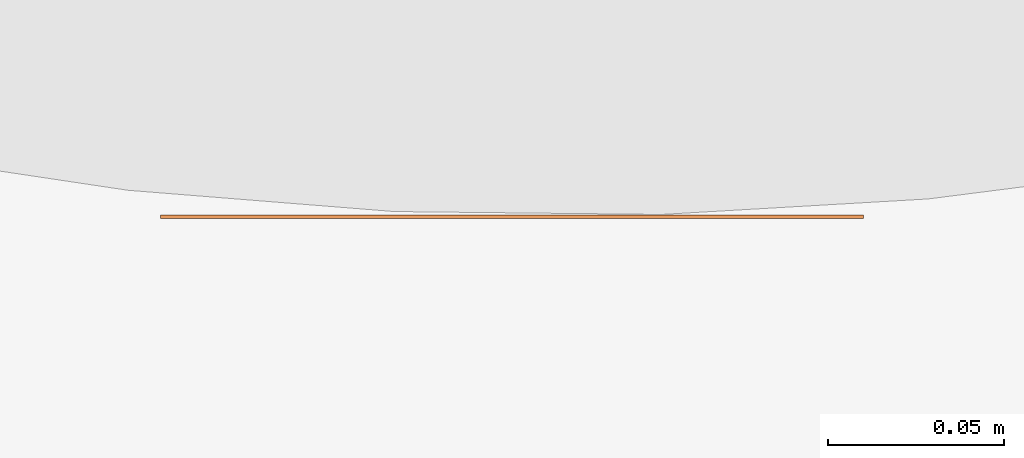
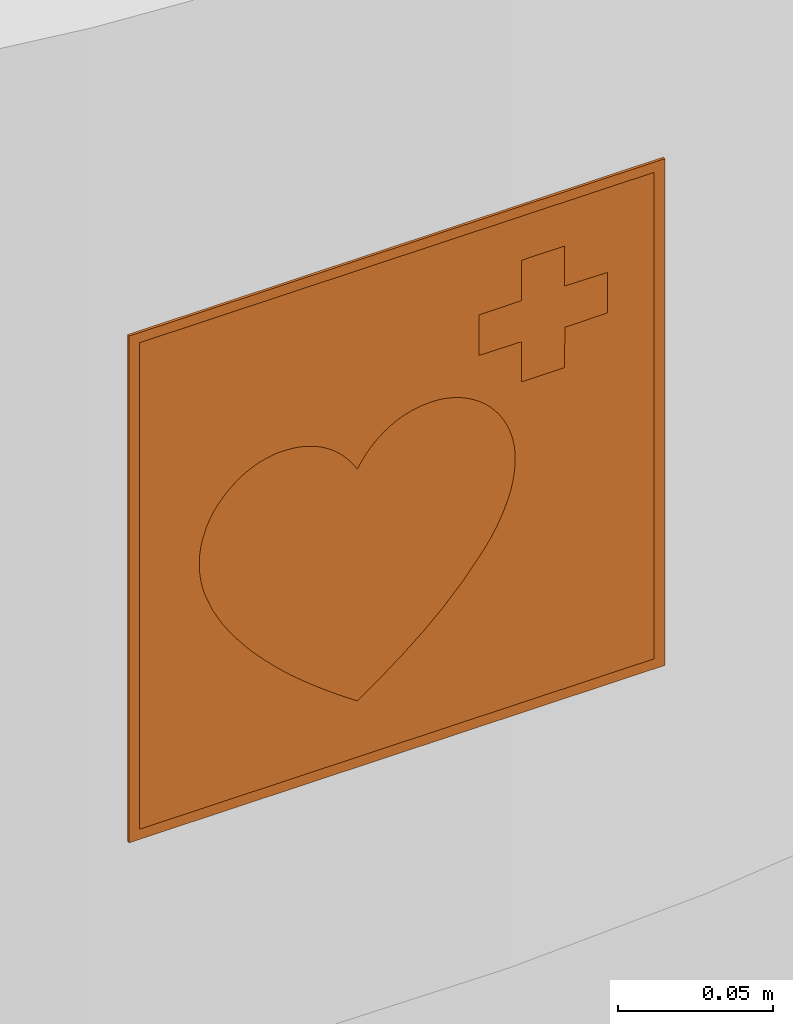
# One storey, part 131 of 133: 1 proxy.
"""IFC2X3 building model written with IfcOpenShell, lengths in centimetres."""

from ifc_helpers import new_model, entity, si_unit, converted_unit, direction, frame, origin, origin_with_axes, place, context, subcontext, project, spatial, faceted_brep, source, transform, mapped, material, material_list, type_object, element, save


model = new_model("IFC2X3")

# Units and contexts
model_context = context("Model", 3, precision=0.0001, world=origin(), true_north=direction((0.225632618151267, 0.974212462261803, 0.0)))
body_context = subcontext(model_context, "Body", "Model", "MODEL_VIEW")
ifc_project = project(units=[si_unit("LENGTHUNIT", "METRE", prefix="CENTI"), si_unit("AREAUNIT", "SQUARE_METRE", prefix="CENTI"), si_unit("VOLUMEUNIT", "CUBIC_METRE", prefix="CENTI"), converted_unit("PLANEANGLEUNIT", "DEGREE", entity("IfcRatioMeasure", 0.0174532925), si_unit("PLANEANGLEUNIT", "RADIAN"), dimensions=[0, 0, 0, 0, 0, 0, 0])], contexts=[model_context])

# Site, building, storey
site_placement = place(None, origin_with_axes())
site = spatial("IfcSite", under=ifc_project, at=site_placement, Name="Default Site", CompositionType="ELEMENT")
building_placement = place(site_placement, origin_with_axes())
building = spatial("IfcBuilding", under=site, at=building_placement, Name="Default Building", CompositionType="ELEMENT")
storey_placement = place(building_placement, frame((0.0, 0.0, -291.400371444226), z_axis=(0.0, 0.0, 1.0), x_axis=(1.0, 0.0, 0.0)))
storey = spatial("IfcBuildingStorey", under=building, at=storey_placement, Name="Rez-de-Jardin", CompositionType="ELEMENT", Elevation=-291.400371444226)

# Proxy
ifc_material_1 = material(Name="Blanc signal")
ifc_material_2 = material(Name="Vert signal")
ifc_material_list = material_list([ifc_material_1, ifc_material_2])
building_element_proxy_type = type_object("IfcBuildingElementProxyType", Name="Défribillateur externe automatique - E010", PredefinedType="NOTDEFINED", material=ifc_material_list)
shared_shape = source(origin_with_axes(), body_context, "Body", "Brep", [
    faceted_brep([(-5.9697799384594, -0.05000009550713, 2.87996437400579), (-6.17740750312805, -0.05000009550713, 2.71382350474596), (-6.37210458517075, -0.05000009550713, 2.53269914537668), (-6.67807310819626, -0.05000009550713, 2.18735616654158), (-6.80688992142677, -0.05000009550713, 2.0109822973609), (-6.9230742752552, -0.05000009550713, 1.82604156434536), (-7.02537819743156, -0.05000009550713, 1.63459572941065), (-7.11396113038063, -0.05000009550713, 1.43642798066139), (-7.25809261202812, -0.0500000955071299, 1.00648486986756), (-7.31892958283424, -0.0500000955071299, 0.737267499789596), (-7.35832378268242, -0.0500000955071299, 0.464088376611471), (-7.37675875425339, -0.0500000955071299, 0.184654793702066), (-7.3740191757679, -0.0500000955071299, -0.095372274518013), (-7.34976679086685, -0.0500000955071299, -0.382277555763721), (-7.30453208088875, -0.0500000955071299, -0.666630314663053), (-7.23716542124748, -0.0500000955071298, -0.957922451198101), (-7.15084969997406, -0.0500000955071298, -1.24417254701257), (-6.88293874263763, -0.0500000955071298, -1.90388578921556), (-6.52337297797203, -0.0500000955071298, -2.56798472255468), (-6.06728345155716, -0.0500000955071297, -3.24468947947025), (-5.50898797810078, -0.0500000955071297, -3.94239984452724), (-5.2450742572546, -0.0500000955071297, -4.23672907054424), (-4.9113716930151, -0.0500000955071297, -4.58561107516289), (-4.56524267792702, -0.0500000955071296, -4.93128038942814), (-4.26174253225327, -0.0500000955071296, -5.21679930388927), (-4.16735634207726, -0.0500000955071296, -5.30245080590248), (-4.08604256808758, -0.0500000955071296, -5.37641458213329), (-4.01523225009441, -0.0500000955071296, -5.44094331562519), (-3.9663840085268, -0.0500000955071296, -5.48632927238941), (-3.73893491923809, -0.0500000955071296, -5.67861199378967), (-3.52138057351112, -0.0500000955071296, -5.86148165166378), (-3.37387956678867, -0.0500000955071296, -5.98331838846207), (-2.9934810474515, -0.0500000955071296, -6.28429725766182), (-2.51603294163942, -0.0500000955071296, -6.64502084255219), (-2.03654579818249, -0.0500000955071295, -6.99566230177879), (-1.65118034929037, -0.0500000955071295, -7.26385414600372), (-1.48224169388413, -0.0500000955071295, -7.37755075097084), (-1.39591982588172, -0.0500000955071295, -7.32002481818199), (-0.590708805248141, -0.0500000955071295, -6.75578340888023), (0.229921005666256, -0.0500000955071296, -6.12583719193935), (1.00595680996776, -0.0500000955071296, -5.47851845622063), (1.67584083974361, -0.0500000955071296, -4.86243478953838), (2.48460378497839, -0.0500000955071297, -4.01150658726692), (3.22410352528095, -0.0500000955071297, -3.09974066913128), (3.4973468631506, -0.0500000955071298, -2.70579047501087), (3.74174006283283, -0.0500000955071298, -2.29332074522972), (3.95603217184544, -0.0500000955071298, -1.86444111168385), (4.13912944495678, -0.0500000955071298, -1.4213440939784), (4.24016267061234, -0.0500000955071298, -1.11633241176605), (4.31885458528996, -0.0500000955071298, -0.804807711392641), (4.37479242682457, -0.0500000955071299, -0.488404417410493), (4.4076818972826, -0.0500000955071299, -0.168782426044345), (4.41735163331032, -0.0500000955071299, 0.152381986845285), (4.40661609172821, -0.0500000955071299, 0.40299822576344), (4.37753461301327, -0.0500000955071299, 0.652151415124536), (4.33026514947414, -0.0500000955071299, 0.898503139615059), (4.26506064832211, -0.0500000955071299, 1.14072598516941), (4.18227463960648, -0.05000009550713, 1.3775167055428), (4.08234968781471, -0.05000009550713, 1.60760134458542), (3.9589487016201, -0.05000009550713, 1.8420023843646), (3.81802543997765, -0.05000009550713, 2.0663071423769), (3.66040132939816, -0.05000009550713, 2.2792087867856), (3.48960496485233, -0.05000009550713, 2.47563626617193), (3.30357067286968, -0.05000009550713, 2.6576979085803), (3.10350246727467, -0.05000009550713, 2.82421670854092), (2.89422832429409, -0.05000009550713, 2.97137964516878), (2.6735957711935, -0.05000009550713, 3.10089476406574), (2.44308840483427, -0.05000009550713, 3.21188978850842), (2.20711883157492, -0.05000009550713, 3.30209285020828), (1.96432806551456, -0.05000009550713, 3.37188169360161), (1.71647686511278, -0.05000009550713, 3.42075228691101), (1.52499228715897, -0.0500000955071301, 3.4431129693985), (1.33239831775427, -0.0500000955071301, 3.45171093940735), (0.930626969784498, -0.0500000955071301, 3.42992804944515), (0.531678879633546, -0.05000009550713, 3.35748344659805), (0.341801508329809, -0.05000009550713, 3.30369062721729), (0.156007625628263, -0.05000009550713, 3.23714539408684), (-0.0752317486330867, -0.05000009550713, 3.13326194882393), (-0.29635604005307, -0.05000009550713, 3.00929769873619), (-0.515080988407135, -0.05000009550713, 2.86138989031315), (-0.721525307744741, -0.05000009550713, 2.69677378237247), (-0.915152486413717, -0.05000009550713, 2.51583009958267), (-1.09403785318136, -0.05000009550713, 2.32030022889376), (-1.25090414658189, -0.05000009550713, 2.1175904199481), (-1.38967204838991, -0.05000009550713, 1.90208610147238), (-1.47237908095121, -0.05000009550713, 1.76055375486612), (-1.51053396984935, -0.05000009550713, 1.82363130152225), (-1.71739123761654, -0.05000009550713, 2.13268529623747), (-1.95167250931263, -0.05000009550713, 2.42150537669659), (-2.11307890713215, -0.05000009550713, 2.58995965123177), (-2.28639785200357, -0.05000009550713, 2.74613257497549), (-2.47069653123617, -0.05000009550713, 2.88918130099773), (-2.65901014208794, -0.05000009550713, 3.01398131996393), (-2.85627748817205, -0.05000009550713, 3.1240863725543), (-3.06135378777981, -0.05000009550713, 3.21885533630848), (-3.27415317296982, -0.05000009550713, 3.29829975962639), (-3.49230468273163, -0.05000009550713, 3.36158312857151), (-3.71458306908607, -0.05000009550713, 3.40835116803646), (-3.9118655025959, -0.0500000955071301, 3.43321412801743), (-4.15606014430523, -0.0500000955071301, 3.4470722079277), (-4.39499840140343, -0.0500000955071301, 3.4491166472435), (-4.57249470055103, -0.0500000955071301, 3.43628451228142), (-4.82556708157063, -0.05000009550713, 3.39302644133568), (-5.07432222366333, -0.05000009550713, 3.32948230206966), (-5.31057491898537, -0.05000009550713, 3.2474473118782), (-5.53876310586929, -0.05000009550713, 3.14510017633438), (-5.75998574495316, -0.05000009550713, 3.02182119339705), (-2.00183130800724, -0.0500000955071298, -2.21424121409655), (-2.29901932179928, -0.0500000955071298, -2.20983251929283), (-2.74401064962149, -0.0500000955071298, -2.20855958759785), (-3.72339300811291, -0.0500000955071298, -2.20855958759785), (-3.5364642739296, -0.0500000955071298, -2.00324095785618), (-3.43509875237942, -0.0500000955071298, -1.89119949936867), (-3.26796174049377, -0.0500000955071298, -1.70500949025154), (-3.07650007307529, -0.0500000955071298, -1.49106383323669), (-2.88490708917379, -0.0500000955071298, -1.27630298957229), (-2.70185340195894, -0.0500000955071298, -1.07084214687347), (-2.53627281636, -0.0500000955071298, -0.885088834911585), (-2.39723492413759, -0.0500000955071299, -0.72918962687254), (-2.35052425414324, -0.0500000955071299, -0.676995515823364), (-2.30517759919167, -0.0500000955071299, -0.626322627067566), (-2.18470022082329, -0.0500000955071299, -0.491207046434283), (-2.04103253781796, -0.0500000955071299, -0.329983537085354), (-1.88397001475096, -0.0500000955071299, -0.15361737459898), (-1.71188954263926, -0.0500000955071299, 0.0396276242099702), (-1.52278551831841, -0.0500000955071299, 0.251918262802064), (-1.34505499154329, -0.0500000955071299, 0.451380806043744), (-1.21161323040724, -0.0500000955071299, 0.601065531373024), (-1.08217261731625, -0.0500000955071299, 0.746319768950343), (-0.918639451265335, -0.0500000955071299, 0.930034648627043), (-0.74949786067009, -0.0500000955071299, 1.12018818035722), (-0.601207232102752, -0.05000009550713, 1.28705212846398), (-0.465042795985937, -0.05000009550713, 1.43995489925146), (-0.332803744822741, -0.05000009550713, 1.58763639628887), (-0.219475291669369, -0.05000009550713, 1.71349979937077), (-0.157705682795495, -0.05000009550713, 1.78092550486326), (-0.0793394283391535, -0.05000009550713, 1.86408553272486), (-0.0646249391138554, -0.05000009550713, 1.87805276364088), (-0.0478750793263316, -0.05000009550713, 1.89093481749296), (-0.0482590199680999, -0.05000009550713, 1.86868440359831), (-0.0560547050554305, -0.05000009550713, 1.85236148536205), (-0.128567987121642, -0.05000009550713, 1.70834511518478), (-0.812224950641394, -0.0500000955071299, 0.261322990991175), (-1.51655590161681, -0.0500000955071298, -1.23011451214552), (-1.52737889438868, -0.0500000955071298, -1.25549333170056), (-1.53679391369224, -0.0500000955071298, -1.28407329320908), (-1.533193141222, -0.0500000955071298, -1.29831116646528), (-1.52043467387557, -0.0500000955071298, -1.30558358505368), (-1.39901740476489, -0.0500000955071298, -1.31536927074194), (-1.16932708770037, -0.0500000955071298, -1.32156498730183), (-0.555958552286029, -0.0500000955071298, -1.32601540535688), (0.435801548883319, -0.0500000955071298, -1.33179454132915), (-1.32305407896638, -0.0500000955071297, -3.38497795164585), (-1.99666805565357, -0.0500000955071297, -4.16921228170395), (-2.56145112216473, -0.0500000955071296, -4.82199788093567), (-3.06375678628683, -0.0500000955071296, -5.39878346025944), (-3.0500415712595, -0.0500000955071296, -5.33910728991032), (-2.99228634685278, -0.0500000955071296, -5.19796311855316), (-2.88794655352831, -0.0500000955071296, -4.94755543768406), (-2.61877160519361, -0.0500000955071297, -4.30613569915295), (-2.51356642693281, -0.0500000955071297, -4.05516736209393), (-2.41325926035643, -0.0500000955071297, -3.81503626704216), (-2.32839863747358, -0.0500000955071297, -3.61115112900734), (-2.28561349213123, -0.0500000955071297, -3.50705906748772), (-2.25017238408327, -0.0500000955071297, -3.42040583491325), (-2.20191515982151, -0.0500000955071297, -3.30340526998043), (-2.14998200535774, -0.0500000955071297, -3.17810550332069), (-2.10206340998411, -0.0500000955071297, -3.06312758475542), (-2.05125547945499, -0.0500000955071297, -2.94157825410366), (-1.99021305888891, -0.0500000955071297, -2.79551018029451), (-1.92901156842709, -0.0500000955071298, -2.6490343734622), (-1.87766831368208, -0.0500000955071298, -2.52612438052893), (-1.83435026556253, -0.0500000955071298, -2.42071151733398), (-1.79783347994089, -0.0500000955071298, -2.32809036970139), (-1.76765844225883, -0.0500000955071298, -2.24869959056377), (-1.76475048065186, -0.0500000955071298, -2.23542563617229), (-1.7676904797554, -0.0500000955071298, -2.22409218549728), (-10.0000195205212, -0.05000009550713, -10.0000195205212), (-10.0000195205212, -0.05000009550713, 10.0000195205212), (-10.0000195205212, 0.05000009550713, 10.0000195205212), (-10.0000195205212, 0.05000009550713, -10.0000195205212), (10.0000195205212, -0.05000009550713, 10.0000195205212), (10.0000195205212, 0.05000009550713, 10.0000195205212), (10.0000195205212, 0.05000009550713, -10.0000195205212), (-10.0000195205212, 0.0500000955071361, 10.0000195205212), (10.0000195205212, 0.0500000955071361, 10.0000195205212), (10.0000195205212, -0.05000009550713, -10.0000195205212), (10.0000195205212, -0.050000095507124, 10.0000195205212), (-10.0000195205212, -0.050000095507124, 10.0000195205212), (-9.60001945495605, -0.050000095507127, -9.08395814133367e-31), (-9.60001945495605, -0.0500000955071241, 9.60001945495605), (0.0, -0.0500000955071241, 9.60001945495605), (9.60001945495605, -0.0500000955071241, 9.60001945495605), (9.60001945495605, -0.050000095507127, -9.08395814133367e-31), (9.60001945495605, -0.0500000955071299, -9.60001945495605), (0.0, -0.0500000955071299, -9.60001945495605), (-9.60001945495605, -0.0500000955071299, -9.60001945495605), (-2.29901932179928, -0.05000009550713, -2.20983251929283), (-2.00183130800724, -0.05000009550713, -2.21424121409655), (-1.77607610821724, -0.05000009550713, -2.22023278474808), (-1.76590215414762, -0.05000009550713, -2.22668778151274), (-1.76511742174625, -0.05000009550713, -2.23881397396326), (-1.79783347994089, -0.05000009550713, -2.32809036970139), (-1.83435026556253, -0.05000009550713, -2.42071151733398), (-1.87766831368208, -0.05000009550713, -2.52612438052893), (-1.92901156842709, -0.05000009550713, -2.6490343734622), (-1.99021305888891, -0.05000009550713, -2.79551018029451), (-2.05125547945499, -0.05000009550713, -2.94157825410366), (-2.10206340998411, -0.05000009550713, -3.06312758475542), (-2.14998200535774, -0.05000009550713, -3.17810550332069), (-2.20191515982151, -0.05000009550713, -3.30340526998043), (-2.25017238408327, -0.05000009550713, -3.42040583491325), (-2.28561349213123, -0.05000009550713, -3.50705906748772), (-2.32839863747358, -0.05000009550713, -3.61115112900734), (-2.41325926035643, -0.05000009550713, -3.81503626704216), (-2.51356642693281, -0.0500000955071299, -4.05516736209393), (-2.61877160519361, -0.0500000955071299, -4.30613569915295), (-2.88794655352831, -0.0500000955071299, -4.94755543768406), (-2.99228634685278, -0.0500000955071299, -5.19796311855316), (-3.0500415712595, -0.0500000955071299, -5.33910728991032), (-3.06909009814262, -0.0500000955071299, -5.39563931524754), (-2.56145112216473, -0.0500000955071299, -4.82199788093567), (-1.99666805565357, -0.0500000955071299, -4.16921228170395), (-1.32305407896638, -0.05000009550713, -3.38497795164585), (0.435801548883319, -0.0500000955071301, -1.33179454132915), (-0.555958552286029, -0.0500000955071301, -1.32601540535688), (-1.16932708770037, -0.0500000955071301, -1.32156498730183), (-1.39901740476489, -0.0500000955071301, -1.31536927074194), (-1.52043467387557, -0.0500000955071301, -1.30558358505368), (-1.53062362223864, -0.0500000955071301, -1.30106415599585), (-1.53689747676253, -0.0500000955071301, -1.28908753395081), (-1.52737889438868, -0.0500000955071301, -1.25549333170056), (-1.51655590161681, -0.0500000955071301, -1.23011451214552), (-0.812224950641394, -0.0500000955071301, 0.261322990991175), (-0.128567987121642, -0.0500000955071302, 1.70834511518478), (-0.0560547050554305, -0.0500000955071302, 1.85236148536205), (-0.0482590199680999, -0.0500000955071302, 1.86868440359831), (-0.0419906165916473, -0.0500000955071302, 1.88565291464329), (-0.0646249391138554, -0.0500000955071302, 1.87805276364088), (-0.0793394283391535, -0.0500000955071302, 1.86408553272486), (-0.157705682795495, -0.0500000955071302, 1.78092550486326), (-0.219475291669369, -0.0500000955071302, 1.71349979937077), (-0.332803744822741, -0.0500000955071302, 1.58763639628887), (-0.465042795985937, -0.0500000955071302, 1.43995489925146), (-0.601207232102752, -0.0500000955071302, 1.28705212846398), (-0.74949786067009, -0.0500000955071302, 1.12018818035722), (-0.918639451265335, -0.0500000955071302, 0.930034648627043), (-1.08217261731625, -0.0500000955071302, 0.746319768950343), (-1.21161323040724, -0.0500000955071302, 0.601065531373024), (-1.34505499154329, -0.0500000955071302, 0.451380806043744), (-1.52278551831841, -0.0500000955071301, 0.251918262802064), (-1.71188954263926, -0.0500000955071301, 0.0396276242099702), (-1.88397001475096, -0.0500000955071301, -0.15361737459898), (-2.04103253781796, -0.0500000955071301, -0.329983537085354), (-2.18470022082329, -0.0500000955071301, -0.491207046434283), (-2.30517759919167, -0.0500000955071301, -0.626322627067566), (-2.35052425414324, -0.0500000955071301, -0.676995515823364), (-2.39723492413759, -0.0500000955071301, -0.72918962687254), (-2.53627281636, -0.0500000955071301, -0.885088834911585), (-2.70185340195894, -0.0500000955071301, -1.07084214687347), (-2.88490708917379, -0.0500000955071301, -1.27630298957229), (-3.07650007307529, -0.0500000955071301, -1.49106383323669), (-3.26796174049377, -0.05000009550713, -1.70500949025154), (-3.43509875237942, -0.05000009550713, -1.89119949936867), (-3.5364642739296, -0.05000009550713, -2.00324095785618), (-3.72339300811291, -0.05000009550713, -2.20855958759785), (-2.74401064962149, -0.05000009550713, -2.20855958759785), (-9.60001945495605, -0.05000009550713, 9.60001945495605), (-9.60001945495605, -0.0500000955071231, 5.01288463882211e-30), (-9.60001945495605, -0.0500000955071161, -9.60001945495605), (-2.56957721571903e-46, -0.0500000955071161, -9.60001945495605), (9.60001945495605, -0.0500000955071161, -9.60001945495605), (9.60001945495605, -0.0500000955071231, 5.01288463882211e-30), (9.60001945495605, -0.05000009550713, 9.60001945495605), (0.0, -0.05000009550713, 9.60001945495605), (4.65461015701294, -0.0500000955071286, 7.61321932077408), (4.65910211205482, -0.0500000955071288, 7.83973410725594), (4.66250069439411, -0.0500000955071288, 7.85076469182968), (4.67255599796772, -0.0500000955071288, 7.85889402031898), (4.90783266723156, -0.0500000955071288, 7.86309912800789), (5.16609735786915, -0.0500000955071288, 7.86456093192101), (5.46988174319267, -0.0500000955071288, 7.86341279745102), (6.25943392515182, -0.0500000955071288, 7.85758793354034), (6.25943392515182, -0.0500000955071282, 7.06960931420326), (6.25943392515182, -0.0500000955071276, 6.28163143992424), (7.05851092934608, -0.0500000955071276, 6.270532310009), (7.85758793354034, -0.0500000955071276, 6.25943392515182), (7.85758793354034, -0.050000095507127, 5.46035692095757), (7.85758793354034, -0.0500000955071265, 4.6612810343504), (7.06434026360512, -0.0500000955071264, 4.65545170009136), (6.27109259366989, -0.0500000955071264, 4.64962236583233), (6.26526325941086, -0.0500000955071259, 3.8563746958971), (6.25943392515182, -0.0500000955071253, 3.06312702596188), (5.46035692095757, -0.0500000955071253, 3.06312702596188), (4.6612810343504, -0.0500000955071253, 3.06312702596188), (4.65545170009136, -0.0500000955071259, 3.8563746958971), (4.64962236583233, -0.0500000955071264, 4.64962236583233), (3.8563746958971, -0.0500000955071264, 4.65545170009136), (3.06312702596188, -0.0500000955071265, 4.6612810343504), (3.06312702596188, -0.050000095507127, 5.46035692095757), (3.06312702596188, -0.0500000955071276, 6.25943392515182), (3.85665446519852, -0.0500000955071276, 6.26526325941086), (4.65018190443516, -0.0500000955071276, 6.27109259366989), (4.65018190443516, -0.0500000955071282, 7.05509185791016), (4.65126819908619, -0.0500000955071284, 7.35674723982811), (-6.17740750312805, -0.0500000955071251, 2.71382350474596), (-5.9697799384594, -0.0500000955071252, 2.87996437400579), (-5.75998574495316, -0.0500000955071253, 3.02182119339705), (-5.53876310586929, -0.0500000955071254, 3.14510017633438), (-5.31057491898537, -0.0500000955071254, 3.2474473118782), (-5.07432222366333, -0.0500000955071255, 3.32948230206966), (-4.82556708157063, -0.0500000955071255, 3.39302644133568), (-4.57249470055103, -0.0500000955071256, 3.43628451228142), (-4.39499840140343, -0.0500000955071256, 3.4491166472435), (-4.15606014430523, -0.0500000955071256, 3.4470722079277), (-3.9118655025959, -0.0500000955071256, 3.43321412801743), (-3.71458306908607, -0.0500000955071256, 3.40835116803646), (-3.49230468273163, -0.0500000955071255, 3.36158312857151), (-3.27415317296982, -0.0500000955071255, 3.29829975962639), (-3.06135378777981, -0.0500000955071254, 3.21885533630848), (-2.85627748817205, -0.0500000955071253, 3.1240863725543), (-2.65901014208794, -0.0500000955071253, 3.01398131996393), (-2.47069653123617, -0.0500000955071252, 2.88918130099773), (-2.28639785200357, -0.0500000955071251, 2.74613257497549), (-2.11307890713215, -0.050000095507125, 2.58995965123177), (-1.95167250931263, -0.0500000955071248, 2.42150537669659), (-1.71739123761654, -0.0500000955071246, 2.13268529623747), (-1.51053396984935, -0.0500000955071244, 1.82363130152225), (-1.47237908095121, -0.0500000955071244, 1.76055375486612), (-1.38967204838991, -0.0500000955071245, 1.90208610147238), (-1.25090414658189, -0.0500000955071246, 2.1175904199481), (-1.09403785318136, -0.0500000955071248, 2.32030022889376), (-0.915152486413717, -0.0500000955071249, 2.51583009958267), (-0.721525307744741, -0.050000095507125, 2.69677378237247), (-0.515080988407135, -0.0500000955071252, 2.86138989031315), (-0.29635604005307, -0.0500000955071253, 3.00929769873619), (-0.0752317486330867, -0.0500000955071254, 3.13326194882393), (0.156007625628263, -0.0500000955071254, 3.23714539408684), (0.341801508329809, -0.0500000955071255, 3.30369062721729), (0.531678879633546, -0.0500000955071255, 3.35748344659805), (0.930626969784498, -0.0500000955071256, 3.42992804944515), (1.33239831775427, -0.0500000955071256, 3.45171093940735), (1.52499228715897, -0.0500000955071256, 3.4431129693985), (1.71647686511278, -0.0500000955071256, 3.42075228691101), (1.96432806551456, -0.0500000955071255, 3.37188169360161), (2.20711883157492, -0.0500000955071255, 3.30209285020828), (2.44308840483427, -0.0500000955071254, 3.21188978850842), (2.6735957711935, -0.0500000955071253, 3.10089476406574), (2.89422832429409, -0.0500000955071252, 2.97137964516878), (3.10350246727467, -0.0500000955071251, 2.82421670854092), (3.30357067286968, -0.050000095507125, 2.6576979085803), (3.48960496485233, -0.0500000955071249, 2.47563626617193), (3.66040132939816, -0.0500000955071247, 2.2792087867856), (3.81802543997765, -0.0500000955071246, 2.0663071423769), (3.9589487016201, -0.0500000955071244, 1.8420023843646), (4.08234968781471, -0.0500000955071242, 1.60760134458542), (4.18227463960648, -0.0500000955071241, 1.3775167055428), (4.26506064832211, -0.0500000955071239, 1.14072598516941), (4.33026514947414, -0.0500000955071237, 0.898503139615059), (4.37753461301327, -0.0500000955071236, 0.652151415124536), (4.40661609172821, -0.0500000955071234, 0.40299822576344), (4.41735163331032, -0.0500000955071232, 0.152381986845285), (4.4076818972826, -0.050000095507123, -0.168782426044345), (4.37479242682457, -0.0500000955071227, -0.488404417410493), (4.31885458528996, -0.0500000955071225, -0.804807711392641), (4.24016267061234, -0.0500000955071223, -1.11633241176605), (4.13912944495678, -0.0500000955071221, -1.4213440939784), (3.95603217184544, -0.0500000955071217, -1.86444111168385), (3.74174006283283, -0.0500000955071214, -2.29332074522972), (3.4973468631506, -0.0500000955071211, -2.70579047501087), (3.22410352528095, -0.0500000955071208, -3.09974066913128), (2.48460378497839, -0.0500000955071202, -4.01150658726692), (1.67584083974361, -0.0500000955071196, -4.86243478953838), (1.00595680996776, -0.0500000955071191, -5.47851845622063), (0.229921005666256, -0.0500000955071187, -6.12583719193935), (-0.590708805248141, -0.0500000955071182, -6.75578340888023), (-1.39591982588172, -0.0500000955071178, -7.32002481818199), (-1.48224169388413, -0.0500000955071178, -7.37755075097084), (-1.65118034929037, -0.0500000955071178, -7.26385414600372), (-2.03654579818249, -0.050000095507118, -6.99566230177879), (-2.51603294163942, -0.0500000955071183, -6.64502084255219), (-2.9934810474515, -0.0500000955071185, -6.28429725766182), (-3.37387956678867, -0.0500000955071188, -5.98331838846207), (-3.52138057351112, -0.0500000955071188, -5.86148165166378), (-3.73893491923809, -0.050000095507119, -5.67861199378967), (-3.9663840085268, -0.0500000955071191, -5.48632927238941), (-4.00648191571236, -0.0500000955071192, -5.44932074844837), (-4.08604256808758, -0.0500000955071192, -5.37641458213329), (-4.16735634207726, -0.0500000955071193, -5.30245080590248), (-4.26174253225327, -0.0500000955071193, -5.21679930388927), (-4.56524267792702, -0.0500000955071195, -4.93128038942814), (-4.9113716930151, -0.0500000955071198, -4.58561107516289), (-5.2450742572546, -0.05000009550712, -4.23672907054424), (-5.50898797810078, -0.0500000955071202, -3.94239984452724), (-6.06728345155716, -0.0500000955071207, -3.24468947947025), (-6.52337297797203, -0.0500000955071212, -2.56798472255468), (-6.88293874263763, -0.0500000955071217, -1.90388578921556), (-7.15084969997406, -0.0500000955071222, -1.24417254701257), (-7.23716542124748, -0.0500000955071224, -0.957922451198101), (-7.30453208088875, -0.0500000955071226, -0.666630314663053), (-7.34976679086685, -0.0500000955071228, -0.382277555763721), (-7.3740191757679, -0.050000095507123, -0.095372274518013), (-7.37675875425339, -0.0500000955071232, 0.184654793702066), (-7.35832378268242, -0.0500000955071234, 0.464088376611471), (-7.31892958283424, -0.0500000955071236, 0.737267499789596), (-7.25809261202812, -0.0500000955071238, 1.00648486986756), (-7.11396113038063, -0.0500000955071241, 1.43642798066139), (-7.02537819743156, -0.0500000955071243, 1.63459572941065), (-6.9230742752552, -0.0500000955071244, 1.82604156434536), (-6.80688992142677, -0.0500000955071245, 2.0109822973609), (-6.67807310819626, -0.0500000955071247, 2.18735616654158), (-6.37210458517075, -0.0500000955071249, 2.53269914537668)], [[[0, 1, 2, 3, 4, 5, 6, 7, 8, 9, 10, 11, 12, 13, 14, 15, 16, 17, 18, 19, 20, 21, 22, 23, 24, 25, 26, 27, 28, 29, 30, 31, 32, 33, 34, 35, 36, 37, 38, 39, 40, 41, 42, 43, 44, 45, 46, 47, 48, 49, 50, 51, 52, 53, 54, 55, 56, 57, 58, 59, 60, 61, 62, 63, 64, 65, 66, 67, 68, 69, 70, 71, 72, 73, 74, 75, 76, 77, 78, 79, 80, 81, 82, 83, 84, 85, 86, 87, 88, 89, 90, 91, 92, 93, 94, 95, 96, 97, 98, 99, 100, 101, 102, 103, 104, 105, 106], [107, 108, 109, 110, 111, 112, 113, 114, 115, 116, 117, 118, 119, 120, 121, 122, 123, 124, 125, 126, 127, 128, 129, 130, 131, 132, 133, 134, 135, 136, 137, 138, 139, 140, 141, 142, 143, 144, 145, 146, 147, 148, 149, 150, 151, 152, 153, 154, 155, 156, 157, 158, 159, 160, 161, 162, 163, 164, 165, 166, 167, 168, 169, 170, 171, 172, 173, 174, 175, 176]], [[177, 178, 179, 180]], [[178, 181, 182, 179]], [[183, 180, 184, 185]], [[177, 186, 187, 188], [189, 190, 191, 192, 193, 194, 195, 196]], [[181, 186, 183, 182]], [[186, 177, 180, 183]], [[197, 198, 199, 200, 201, 202, 203, 204, 205, 206, 207, 208, 209, 210, 211, 212, 213, 214, 215, 216, 217, 218, 219, 220, 221, 222, 223, 224, 225, 226, 227, 228, 229, 230, 231, 232, 233, 234, 235, 236, 237, 238, 239, 240, 241, 242, 243, 244, 245, 246, 247, 248, 249, 250, 251, 252, 253, 254, 255, 256, 257, 258, 259, 260, 261, 262, 263, 264, 265, 266]], [[267, 268, 269, 270, 271, 272, 273, 274], [275, 276, 277, 278, 279, 280, 281, 282, 283, 284, 285, 286, 287, 288, 289, 290, 291, 292, 293, 294, 295, 296, 297, 298, 299, 300, 301, 302, 303, 304], [305, 306, 307, 308, 309, 310, 311, 312, 313, 314, 315, 316, 317, 318, 319, 320, 321, 322, 323, 324, 325, 326, 327, 328, 329, 330, 331, 332, 333, 334, 335, 336, 337, 338, 339, 340, 341, 342, 343, 344, 345, 346, 347, 348, 349, 350, 351, 352, 353, 354, 355, 356, 357, 358, 359, 360, 361, 362, 363, 364, 365, 366, 367, 368, 369, 370, 371, 372, 373, 374, 375, 376, 377, 378, 379, 380, 381, 382, 383, 384, 385, 386, 387, 388, 389, 390, 391, 392, 393, 394, 395, 396, 397, 398, 399, 400, 401, 402, 403, 404, 405, 406, 407, 408, 409, 410, 411]]]),
])
proxy_placement = place(storey_placement, frame((-859.607886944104, -1172.83087288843, 250.0), z_axis=(0.0, 0.0, 1.0), x_axis=(1.0, 0.0, 0.0)))
element("IfcBuildingElementProxy", 1, at=proxy_placement, inside=storey, type_object=building_element_proxy_type, material=ifc_material_list, Name="Bloc 3D 959292", context=body_context, shape_type="MappedRepresentation", body=[
    mapped(shared_shape, transform((0.0, 0.0500000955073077, 10.0000195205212), x_axis=(1.0, 0.0, 0.0), y_axis=(0.0, 1.0, 0.0), z_axis=(0.0, 0.0, 1.0), scale=1.0, scale2=1.0, scale3=1.0, uniform=False)),
])

save(model, "model.ifc")
